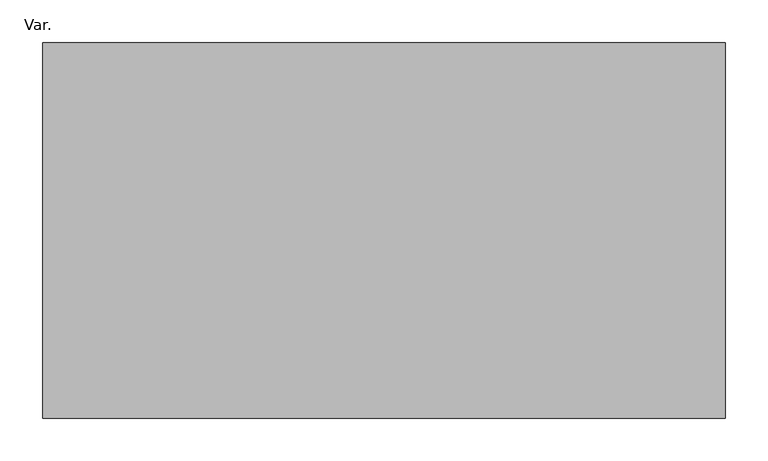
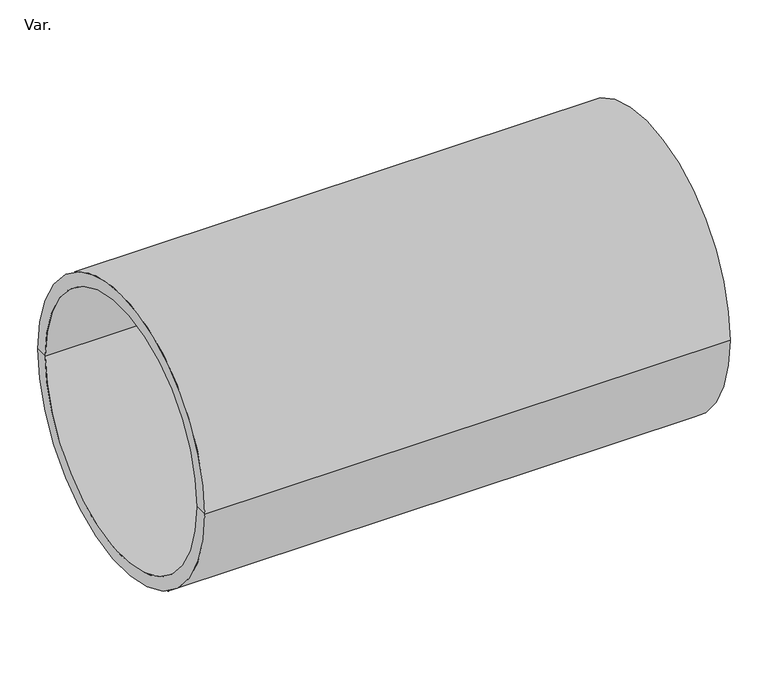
"""IFC4 building model written with IfcOpenShell, lengths in millimetres: pipe fitting geometry, PlastigamaWavin_Unionesdetubería_NovafortZNoUsarElevador : Var.."""

from ifc_helpers import new_model, si_unit, frame, origin, place, context, project, spatial, polyline, circle_curve, source, transform, mapped, element, save
from ifc_brep_helpers import plane_surface, cylinder_surface, revolved_surface, advanced_brep


def var_1f8eb8e2(model_context):
    return source(origin(), model_context, "Body", "AdvancedBrep", [
        advanced_brep(
        [(-69.2453589, -220.0, 0.0), (-69.2453589, 220.0, 0.0), (730.7546411, 220.0, 0.0), (730.7546411, -220.0, 0.0), (-69.2453589, -200.0, 0.0), (-69.2453589, 200.0, 0.0), (730.7546411, -200.0, 0.0), (730.7546411, 200.0, 0.0)],
        [
            (0, 1, circle_curve(frame((-69.2453589, 0.0, 0.0), z_axis=(1.0, 0.0, 0.0), x_axis=(0.0, 1.0, 0.0)), 220.0)),
            (1, 2),
            (2, 3, circle_curve(frame((730.7546411, 0.0, 0.0), z_axis=(-1.0, 0.0, 0.0), x_axis=(0.0, 1.0, 0.0)), 220.0)),
            (3, 0),
            (1, 0, circle_curve(frame((-69.2453589, 0.0, 0.0), z_axis=(1.0, 0.0, 0.0), x_axis=(0.0, 1.0, 0.0)), 220.0)),
            (3, 2, circle_curve(frame((730.7546411, 0.0, 0.0), z_axis=(-1.0, 0.0, 0.0), x_axis=(0.0, 1.0, 0.0)), 220.0)),
            (4, 5, circle_curve(frame((-69.2453589, 0.0, 0.0), z_axis=(1.0, 0.0, 0.0), x_axis=(0.0, 1.0, 0.0)), 200.0)),
            (5, 1),
            (0, 4),
            (5, 4, circle_curve(frame((-69.2453589, 0.0, 0.0), z_axis=(1.0, 0.0, 0.0), x_axis=(0.0, 1.0, 0.0)), 200.0)),
            (6, 7, circle_curve(frame((730.7546411, 0.0, 0.0), z_axis=(1.0, 0.0, 0.0), x_axis=(0.0, 1.0, 0.0)), 200.0)),
            (7, 5),
            (4, 6),
            (7, 6, circle_curve(frame((730.7546411, 0.0, 0.0), z_axis=(1.0, 0.0, 0.0), x_axis=(0.0, 1.0, 0.0)), 200.0)),
            (2, 7),
            (6, 3),
        ],
        [
            cylinder_surface(frame((-2070.4026442, 0.0, 0.0), z_axis=(-1.0, 0.0, 0.0), x_axis=(0.0, 1.0, 0.0)), 220.0),
            plane_surface(frame((-69.2453589, 0.0, 0.0), z_axis=(-1.0, 0.0, 0.0), x_axis=(0.0, 1.0, 0.0))),
            revolved_surface(polyline([(-69.24535889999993, 200.0, 0.0), (730.7546410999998, 200.0, 0.0)]), (-2070.4026442, 0.0, 0.0), (-1.0, 0.0, 0.0)),
            plane_surface(frame((730.7546411, 0.0, 0.0), z_axis=(1.0, 0.0, 0.0), x_axis=(0.0, 1.0, 0.0))),
        ],
        [
            (0, [[1, 2, 3, 4]]),
            (0, [[5, -4, 6, -2]]),
            (1, [[7, 8, -1, 9]]),
            (1, [[10, -9, -5, -8]]),
            (2, [[11, 12, -7, 13]]),
            (2, [[14, -13, -10, -12]]),
            (3, [[-3, 15, -11, 16]]),
            (3, [[-6, -16, -14, -15]]),
        ],
    ),
    ])


if __name__ == "__main__":
    model = new_model("IFC4")
    model_context = context("Model", 3, world=origin())
    ifc_project = project(units=[si_unit("LENGTHUNIT", "METRE", prefix="MILLI")], contexts=[model_context])
    site = spatial("IfcSite", under=ifc_project)
    building = spatial("IfcBuilding", under=site)
    placement = place(None, origin())
    var_shape = var_1f8eb8e2(model_context)
    element("IfcPipeFitting", 1, ObjectType="PlastigamaWavin_Unionesdetubería_NovafortZNoUsarElevador : Var.", at=placement, inside=building, context=model_context, shape_type="MappedRepresentation", body=[
        mapped(var_shape, transform((0.0, 0.0, 0.0), x_axis=(1.0, 0.0, 0.0), y_axis=(0.0, 1.0, 0.0), z_axis=(0.0, 0.0, 1.0))),
    ])
    save(model, "model.ifc")
